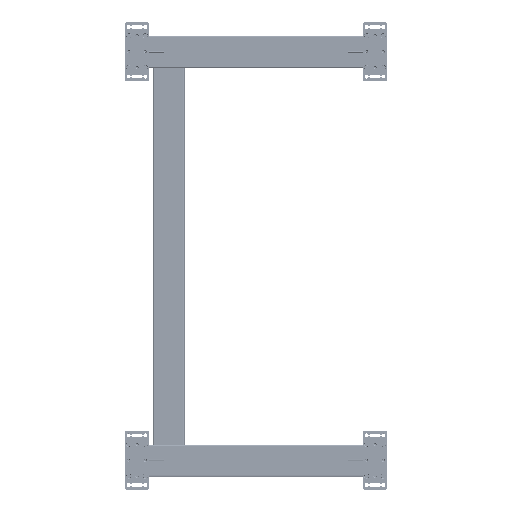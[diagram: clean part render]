
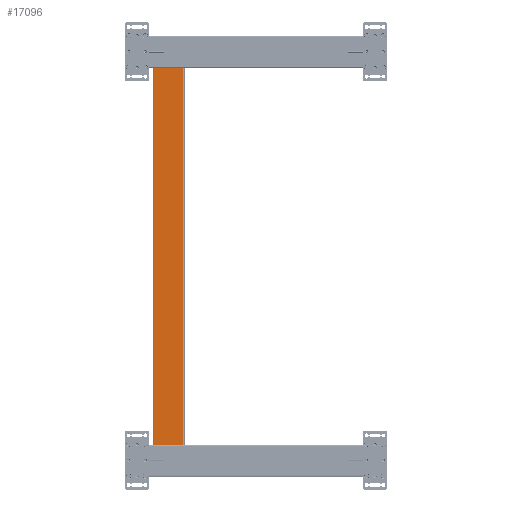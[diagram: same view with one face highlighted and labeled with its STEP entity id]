
A CAD part, top view. The second image highlights one B-rep face of the part: STEP entity #17096.
In plain terms, the highlighted planar face has unit normal (0, 0, 1).
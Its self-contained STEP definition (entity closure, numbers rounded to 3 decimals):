
#1504=LINE('',#35289,#2461);
#1505=LINE('',#35291,#2462);
#1506=LINE('',#35293,#2463);
#1507=LINE('',#35295,#2464);
#2461=VECTOR('',#27247,1000.);
#2462=VECTOR('',#27250,1000.);
#2463=VECTOR('',#27251,1000.);
#2464=VECTOR('',#27252,1000.);
#3490=PLANE('',#22602);
#7489=ORIENTED_EDGE('',*,*,#9984,.F.);
#7490=ORIENTED_EDGE('',*,*,#9983,.F.);
#7491=ORIENTED_EDGE('',*,*,#9985,.T.);
#7492=ORIENTED_EDGE('',*,*,#9986,.T.);
#9983=EDGE_CURVE('',#11559,#11558,#1504,.T.);
#9984=EDGE_CURVE('',#11558,#11560,#1505,.T.);
#9985=EDGE_CURVE('',#11559,#11561,#1506,.T.);
#9986=EDGE_CURVE('',#11561,#11560,#1507,.T.);
#11558=VERTEX_POINT('',#35286);
#11559=VERTEX_POINT('',#35288);
#11560=VERTEX_POINT('',#35292);
#11561=VERTEX_POINT('',#35294);
#13915=EDGE_LOOP('',(#7489,#7490,#7491,#7492));
#15530=FACE_BOUND('',#13915,.T.);
#17096=ADVANCED_FACE('',(#15530),#3490,.T.);
#22602=AXIS2_PLACEMENT_3D('',#35290,#27248,#27249);
#27247=DIRECTION('',(0.,-1.,0.));
#27248=DIRECTION('',(0.,0.,1.));
#27249=DIRECTION('',(1.,0.,0.));
#27250=DIRECTION('',(-1.,0.,0.));
#27251=DIRECTION('',(-1.,0.,0.));
#27252=DIRECTION('',(0.,-1.,0.));
#35286=CARTESIAN_POINT('',(37.,0.,25.));
#35288=CARTESIAN_POINT('',(37.,950.,25.));
#35289=CARTESIAN_POINT('',(37.,950.,25.));
#35290=CARTESIAN_POINT('',(37.,950.,25.));
#35291=CARTESIAN_POINT('',(37.,0.,25.));
#35292=CARTESIAN_POINT('',(-37.,0.,25.));
#35293=CARTESIAN_POINT('',(37.,950.,25.));
#35294=CARTESIAN_POINT('',(-37.,950.,25.));
#35295=CARTESIAN_POINT('',(-37.,950.,25.));
